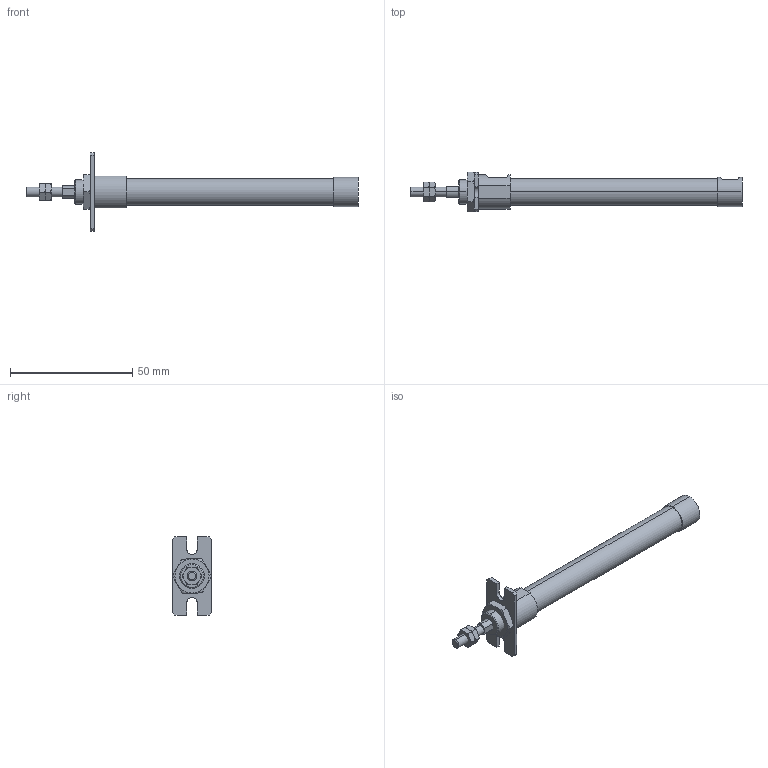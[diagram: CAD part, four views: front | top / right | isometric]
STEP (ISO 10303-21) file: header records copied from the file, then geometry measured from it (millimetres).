
FILE_DESCRIPTION (( 'STEP AP203' ), '1' );
FILE_NAME ('ZGU2-10-60-A.STEP', '2016-03-31T00:54:43', ( '' ), ( '' ), 'SwSTEP 2.0', 'SolidWorks 2014', '' );
FILE_SCHEMA (( 'CONFIG_CONTROL_DESIGN' ));
Length unit declared in the file: millimetre
Products named in the file (5): Z-10-A; ZGU2-10-60; ZGU2-10-60-A
Assembly tree (5 placements, depth 2):
  ZGU2-10-60-A
    ZGU2-10-60
    (unnamed)  x2
    (unnamed)
    Z-10-A
Bounding box: 136 x 16.16 x 32 mm (x, y, z)
Volume: 12816.2 mm3; surface area: 6607.3 mm2
Topology: 5 solids, 5 shells, 129 faces, 292 edges, 178 vertices
Faces by surface type: plane 57, torus 36, cylinder 28, cone 8
Entity records: 3817 total; most frequent: CARTESIAN_POINT 909, DIRECTION 498, ORIENTED_EDGE 480, EDGE_CURVE 240, AXIS2_PLACEMENT_3D 195, VERTEX_POINT 150, EDGE_LOOP 122, VECTOR 108
